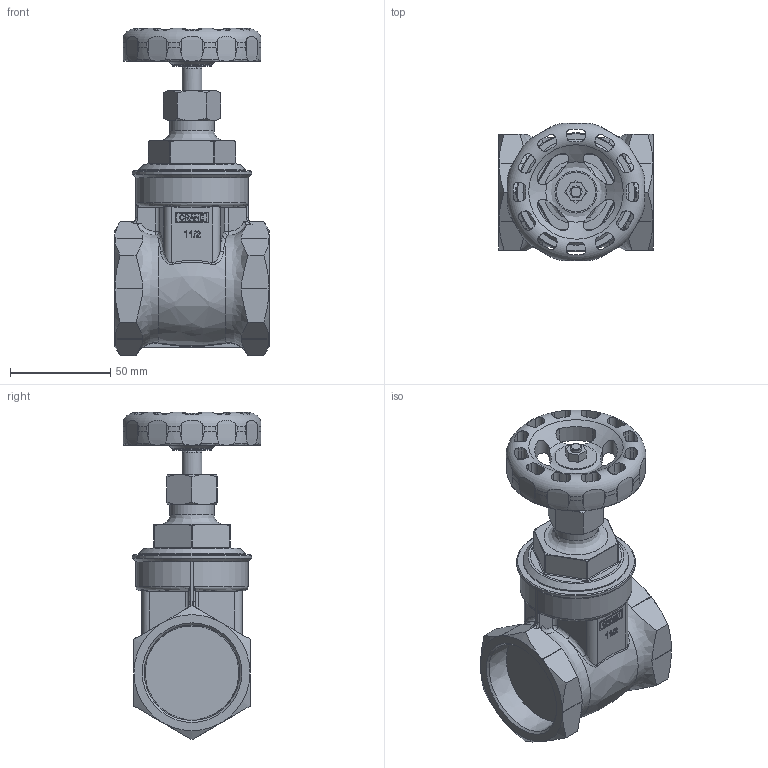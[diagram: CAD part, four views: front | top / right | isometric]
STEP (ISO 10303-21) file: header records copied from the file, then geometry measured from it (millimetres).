
FILE_DESCRIPTION((''),'2;1');
FILE_NAME('P:\Fastrack\53972_CRANE 3D\Gate Valves\Work Space\Handwheel\D151_1 1-2in\D151_1 1-2in.stp','2011-03-11T10:19:42',('btaylor'),(''),'Autodesk Inventor 2008','Autodesk Inventor 2008','');
FILE_SCHEMA(('AUTOMOTIVE_DESIGN { 1 0 10303 214 1 1 1 1 }'));
Length unit declared in the file: millimetre
Products named in the file (1): D151_1 1-2in
Bounding box: 77 x 68.89 x 163.59 mm (x, y, z)
Volume: 286772.9 mm3; surface area: 51361.7 mm2
Topology: 1 solids, 1 shells, 795 faces, 2171 edges, 1383 vertices
Faces by surface type: plane 309, cylinder 232, bspline 203, cone 40, torus 11
Full cylindrical faces by diameter (mm): 6 x2, 10 x1, 19.8 x2, 21 x1, 22 x1, 53 x1, 59.5 x1
Entity records: 36422 total; most frequent: CARTESIAN_POINT 17544, ORIENTED_EDGE 4222, DIRECTION 3001, EDGE_CURVE 2111, VERTEX_POINT 1365, AXIS2_PLACEMENT_3D 1034, VECTOR 933, LINE 933
